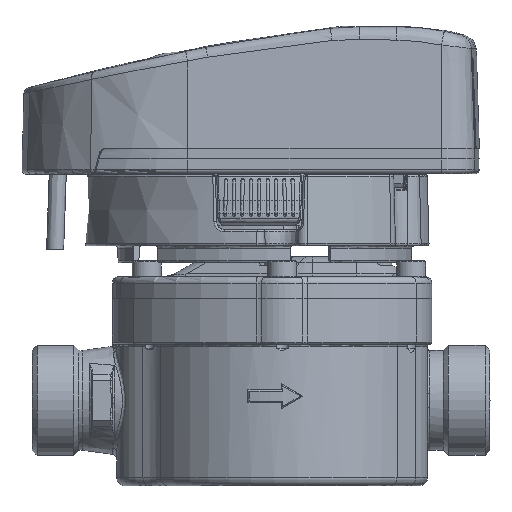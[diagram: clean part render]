
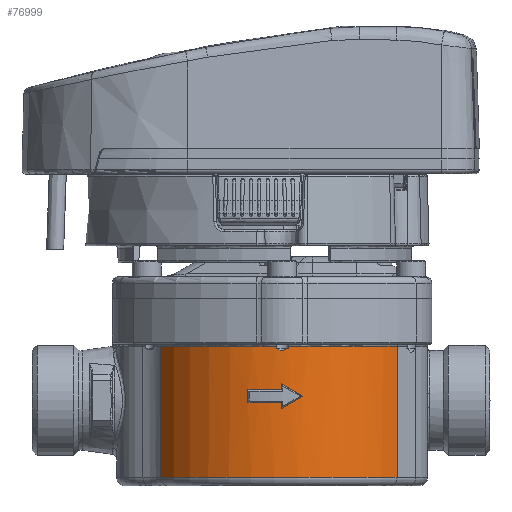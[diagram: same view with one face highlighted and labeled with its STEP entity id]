
A CAD part, front view. The second image highlights one B-rep face of the part: STEP entity #76999.
In plain terms, the highlighted cylindrical face has radius 34.337 mm (diameter 68.674 mm), a partial arc.
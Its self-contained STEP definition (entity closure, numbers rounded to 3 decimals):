
#363=ELLIPSE('',#83443,39.649,34.337);
#364=ELLIPSE('',#83445,39.649,34.337);
#2756=B_SPLINE_CURVE_WITH_KNOTS('',3,(#133397,#133398,#133399,#133400,#133401,
#133402,#133403,#133404,#133405,#133406,#133407,#133408,#133409,#133410,
#133411),.UNSPECIFIED.,.F.,.F.,(4,1,1,1,1,1,1,1,1,1,1,1,4),(0.,0.125,0.188,
0.25,0.313,0.375,0.5,0.625,0.688,0.75,0.813,0.875,1.),.UNSPECIFIED.);
#9084=LINE('',#133416,#13171);
#9085=LINE('',#133418,#13172);
#9178=LINE('',#134294,#13265);
#9183=LINE('',#134314,#13270);
#9188=LINE('',#134338,#13275);
#9192=LINE('',#134397,#13279);
#9195=LINE('',#134404,#13282);
#13171=VECTOR('',#99247,1000.);
#13172=VECTOR('',#99248,1000.);
#13265=VECTOR('',#99737,1000.);
#13270=VECTOR('',#99750,1000.);
#13275=VECTOR('',#99765,1000.);
#13279=VECTOR('',#99797,1000.);
#13282=VECTOR('',#99804,1000.);
#30260=ORIENTED_EDGE('',*,*,#41581,.F.);
#30261=ORIENTED_EDGE('',*,*,#41586,.F.);
#30262=ORIENTED_EDGE('',*,*,#41589,.F.);
#30263=ORIENTED_EDGE('',*,*,#41592,.F.);
#30264=ORIENTED_EDGE('',*,*,#41595,.F.);
#30265=ORIENTED_EDGE('',*,*,#41598,.F.);
#30266=ORIENTED_EDGE('',*,*,#41600,.F.);
#30267=ORIENTED_EDGE('',*,*,#41343,.F.);
#30268=ORIENTED_EDGE('',*,*,#41617,.F.);
#30269=ORIENTED_EDGE('',*,*,#41618,.T.);
#30270=ORIENTED_EDGE('',*,*,#41535,.T.);
#30271=ORIENTED_EDGE('',*,*,#41614,.F.);
#30272=ORIENTED_EDGE('',*,*,#41619,.F.);
#30273=ORIENTED_EDGE('',*,*,#41344,.T.);
#30274=ORIENTED_EDGE('',*,*,#41341,.F.);
#41341=EDGE_CURVE('',#48209,#48210,#2756,.F.);
#41343=EDGE_CURVE('',#48211,#48209,#9084,.T.);
#41344=EDGE_CURVE('',#48212,#48210,#9085,.T.);
#41535=EDGE_CURVE('',#48346,#48350,#51520,.T.);
#41581=EDGE_CURVE('',#48367,#48368,#9178,.T.);
#41586=EDGE_CURVE('',#48372,#48367,#51531,.T.);
#41589=EDGE_CURVE('',#48373,#48372,#9183,.T.);
#41592=EDGE_CURVE('',#48375,#48373,#363,.T.);
#41595=EDGE_CURVE('',#48377,#48375,#364,.T.);
#41598=EDGE_CURVE('',#48379,#48377,#9188,.T.);
#41600=EDGE_CURVE('',#48368,#48379,#51533,.T.);
#41614=EDGE_CURVE('',#48384,#48350,#9192,.T.);
#41617=EDGE_CURVE('',#48386,#48211,#51537,.T.);
#41618=EDGE_CURVE('',#48386,#48346,#9195,.T.);
#41619=EDGE_CURVE('',#48212,#48384,#51538,.T.);
#48209=VERTEX_POINT('',#133412);
#48210=VERTEX_POINT('',#133413);
#48211=VERTEX_POINT('',#133417);
#48212=VERTEX_POINT('',#133419);
#48346=VERTEX_POINT('',#134179);
#48350=VERTEX_POINT('',#134191);
#48367=VERTEX_POINT('',#134293);
#48368=VERTEX_POINT('',#134295);
#48372=VERTEX_POINT('',#134307);
#48373=VERTEX_POINT('',#134312);
#48375=VERTEX_POINT('',#134318);
#48377=VERTEX_POINT('',#134327);
#48379=VERTEX_POINT('',#134336);
#48384=VERTEX_POINT('',#134396);
#48386=VERTEX_POINT('',#134403);
#51520=CIRCLE('',#83397,34.337);
#51531=CIRCLE('',#83439,34.337);
#51533=CIRCLE('',#83448,34.337);
#51537=CIRCLE('',#83462,34.337);
#51538=CIRCLE('',#83463,34.337);
#55632=EDGE_LOOP('',(#30260,#30261,#30262,#30263,#30264,#30265,#30266));
#55633=EDGE_LOOP('',(#30267,#30268,#30269,#30270,#30271,#30272,#30273,#30274));
#59785=FACE_BOUND('',#55632,.T.);
#59786=FACE_BOUND('',#55633,.T.);
#61454=CYLINDRICAL_SURFACE('',#83461,34.337);
#76999=ADVANCED_FACE('',(#59785,#59786),#61454,.T.);
#83397=AXIS2_PLACEMENT_3D('',#134192,#99623,#99624);
#83439=AXIS2_PLACEMENT_3D('',#134308,#99743,#99744);
#83443=AXIS2_PLACEMENT_3D('',#134320,#99755,#99756);
#83445=AXIS2_PLACEMENT_3D('',#134329,#99760,#99761);
#83448=AXIS2_PLACEMENT_3D('',#134341,#99769,#99770);
#83461=AXIS2_PLACEMENT_3D('',#134401,#99800,#99801);
#83462=AXIS2_PLACEMENT_3D('',#134402,#99802,#99803);
#83463=AXIS2_PLACEMENT_3D('',#134405,#99805,#99806);
#99247=DIRECTION('',(0.,0.,-1.));
#99248=DIRECTION('',(0.,0.,-1.));
#99623=DIRECTION('',(0.,0.,1.));
#99624=DIRECTION('',(1.,0.,0.));
#99737=DIRECTION('',(0.,0.,-1.));
#99743=DIRECTION('',(0.,0.,-1.));
#99744=DIRECTION('',(0.,-1.,0.));
#99750=DIRECTION('',(0.,0.,-1.));
#99755=DIRECTION('',(0.,-0.5,-0.866));
#99756=DIRECTION('',(0.,0.866,-0.5));
#99760=DIRECTION('',(0.,-0.5,0.866));
#99761=DIRECTION('',(0.,-0.866,-0.5));
#99765=DIRECTION('',(0.,0.,-1.));
#99769=DIRECTION('',(0.,0.,1.));
#99770=DIRECTION('',(0.,1.,0.));
#99797=DIRECTION('',(0.,0.,-1.));
#99800=DIRECTION('',(0.,0.,-1.));
#99801=DIRECTION('',(-1.,0.,0.));
#99802=DIRECTION('',(0.,0.,1.));
#99803=DIRECTION('',(1.,0.,0.));
#99804=DIRECTION('',(0.,0.,-1.));
#99805=DIRECTION('',(0.,0.,1.));
#99806=DIRECTION('',(1.,0.,0.));
#133397=CARTESIAN_POINT('',(39.588,9.439,34.5));
#133398=CARTESIAN_POINT('',(39.592,9.299,34.426));
#133399=CARTESIAN_POINT('',(39.595,9.113,34.33));
#133400=CARTESIAN_POINT('',(39.598,8.887,34.226));
#133401=CARTESIAN_POINT('',(39.599,8.774,34.175));
#133402=CARTESIAN_POINT('',(39.6,8.539,34.085));
#133403=CARTESIAN_POINT('',(39.599,8.291,34.016));
#133404=CARTESIAN_POINT('',(39.595,8.019,33.977));
#133405=CARTESIAN_POINT('',(39.59,7.743,34.016));
#133406=CARTESIAN_POINT('',(39.583,7.495,34.084));
#133407=CARTESIAN_POINT('',(39.575,7.259,34.174));
#133408=CARTESIAN_POINT('',(39.57,7.147,34.224));
#133409=CARTESIAN_POINT('',(39.56,6.921,34.329));
#133410=CARTESIAN_POINT('',(39.551,6.733,34.425));
#133411=CARTESIAN_POINT('',(39.543,6.593,34.5));
#133412=CARTESIAN_POINT('',(39.543,6.593,34.5));
#133413=CARTESIAN_POINT('',(39.588,9.439,34.5));
#133416=CARTESIAN_POINT('',(39.543,6.593,40.5));
#133417=CARTESIAN_POINT('',(39.543,6.593,35.));
#133418=CARTESIAN_POINT('',(39.588,9.439,40.5));
#133419=CARTESIAN_POINT('',(39.588,9.439,35.));
#134179=CARTESIAN_POINT('',(22.318,-21.236,3.5));
#134191=CARTESIAN_POINT('',(26.408,35.619,3.5));
#134192=CARTESIAN_POINT('',(5.262,8.565,3.5));
#134293=CARTESIAN_POINT('',(38.45,-0.244,24.5));
#134294=CARTESIAN_POINT('',(38.45,-0.244,500000.));
#134295=CARTESIAN_POINT('',(38.45,-0.244,21.5));
#134307=CARTESIAN_POINT('',(39.59,7.756,24.5));
#134308=CARTESIAN_POINT('',(5.262,8.565,24.5));
#134312=CARTESIAN_POINT('',(39.59,7.756,26.));
#134314=CARTESIAN_POINT('',(39.59,7.756,500000.));
#134318=CARTESIAN_POINT('',(39.318,12.952,23.));
#134320=CARTESIAN_POINT('',(5.262,8.565,25.533));
#134327=CARTESIAN_POINT('',(39.59,7.756,20.));
#134329=CARTESIAN_POINT('',(5.262,8.565,20.467));
#134336=CARTESIAN_POINT('',(39.59,7.756,21.5));
#134338=CARTESIAN_POINT('',(39.59,7.756,500000.));
#134341=CARTESIAN_POINT('',(5.262,8.565,21.5));
#134396=CARTESIAN_POINT('',(26.408,35.619,35.));
#134397=CARTESIAN_POINT('',(26.408,35.619,500000.));
#134401=CARTESIAN_POINT('',(5.262,8.565,500000.));
#134402=CARTESIAN_POINT('',(5.262,8.565,35.));
#134403=CARTESIAN_POINT('',(22.318,-21.236,35.));
#134404=CARTESIAN_POINT('',(22.318,-21.236,500000.));
#134405=CARTESIAN_POINT('',(5.262,8.565,35.));
